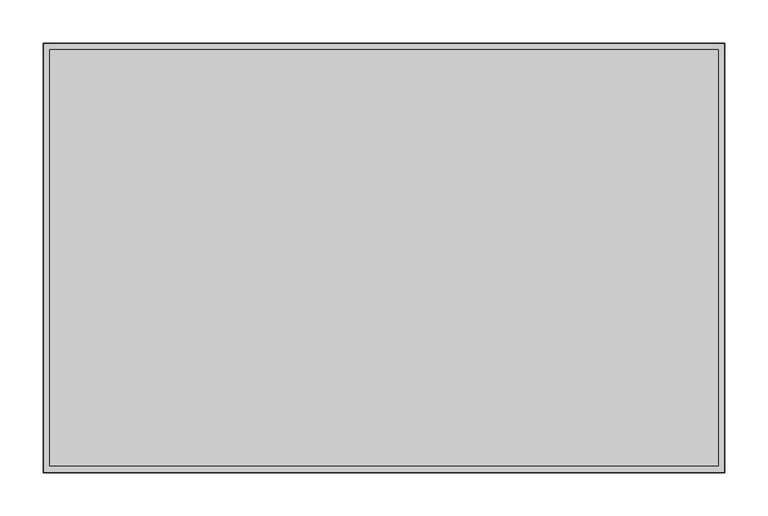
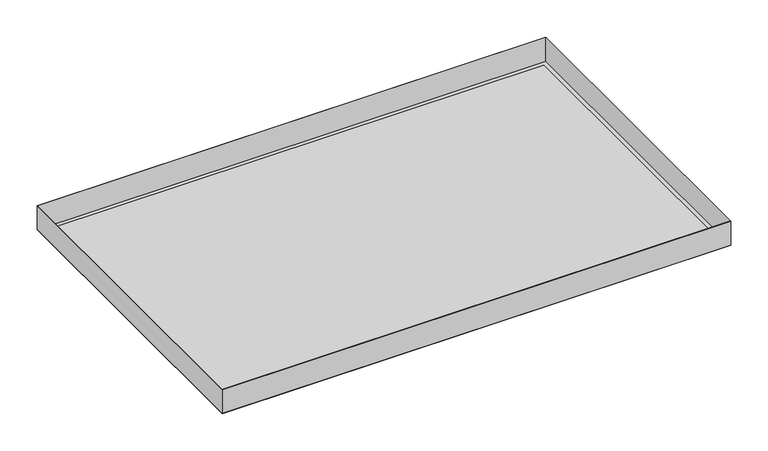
"""IFC4 building model written with IfcOpenShell, lengths in millimetres: proxy geometry, durlum_S7_panel : durlum_S7_panel_wall_corner."""

from ifc_helpers import new_model, si_unit, frame, origin, origin_with_axes, place, context, project, spatial, polyline, outline, extrude, source, transform, mapped, element, save


def generic_models_7d67d448(model_context):
    return source(origin(), model_context, "Body", "SweptSolid", [
        extrude(outline(polyline([(396.0, 249.75), (396.0, -249.75), (-396.0, -249.75), (-396.0, 249.75), (396.0, 249.75)]), holes=[polyline([(395.4, 249.15), (-395.4, 249.15), (-395.4, -249.15), (395.4, -249.15), (395.4, 249.15)])]), frame((0.0, 0.0, 0.6), z_axis=(0.0, 0.0, 1.0), x_axis=(1.0, 0.0, 0.0)), (0.0, 0.0, 1.0), 39.4),
        extrude(outline(polyline([(388.0, 241.75), (388.0, -241.75), (-388.0, -241.75), (-388.0, 241.75), (388.0, 241.75)])), frame((0.0, 0.0, 0.6), z_axis=(0.0, 0.0, 1.0), x_axis=(1.0, 0.0, 0.0)), (0.0, 0.0, 1.0), 0.6),
        extrude(outline(polyline([(396.0, 249.75), (396.0, -249.75), (-396.0, -249.75), (-396.0, 249.75), (396.0, 249.75)]), holes=[polyline([(388.0, 241.75), (-388.0, 241.75), (-388.0, -241.75), (388.0, -241.75), (388.0, 241.75)])]), origin_with_axes(), (0.0, 0.0, 1.0), 0.6),
        extrude(outline(polyline([(388.0, 241.75), (388.0, -241.75), (-388.0, -241.75), (-388.0, 241.75), (388.0, 241.75)])), origin_with_axes(), (0.0, 0.0, 1.0), 0.6),
    ])


if __name__ == "__main__":
    model = new_model("IFC4")
    model_context = context("Model", 3, world=origin())
    ifc_project = project(units=[si_unit("LENGTHUNIT", "METRE", prefix="MILLI")], contexts=[model_context])
    site = spatial("IfcSite", under=ifc_project)
    building = spatial("IfcBuilding", under=site)
    placement = place(None, origin())
    generic_models_shape = generic_models_7d67d448(model_context)
    element("IfcBuildingElementProxy", 1, Name="durlum_S7_panel : durlum_S7_panel_wall_corner", ObjectType="durlum_S7_panel : durlum_S7_panel_wall_corner", at=placement, inside=building, context=model_context, shape_type="MappedRepresentation", body=[
        mapped(generic_models_shape, transform((0.0, 0.0, 0.0), x_axis=(1.0, 0.0, 0.0), y_axis=(0.0, 1.0, 0.0), z_axis=(0.0, 0.0, 1.0))),
    ])
    save(model, "model.ifc")
